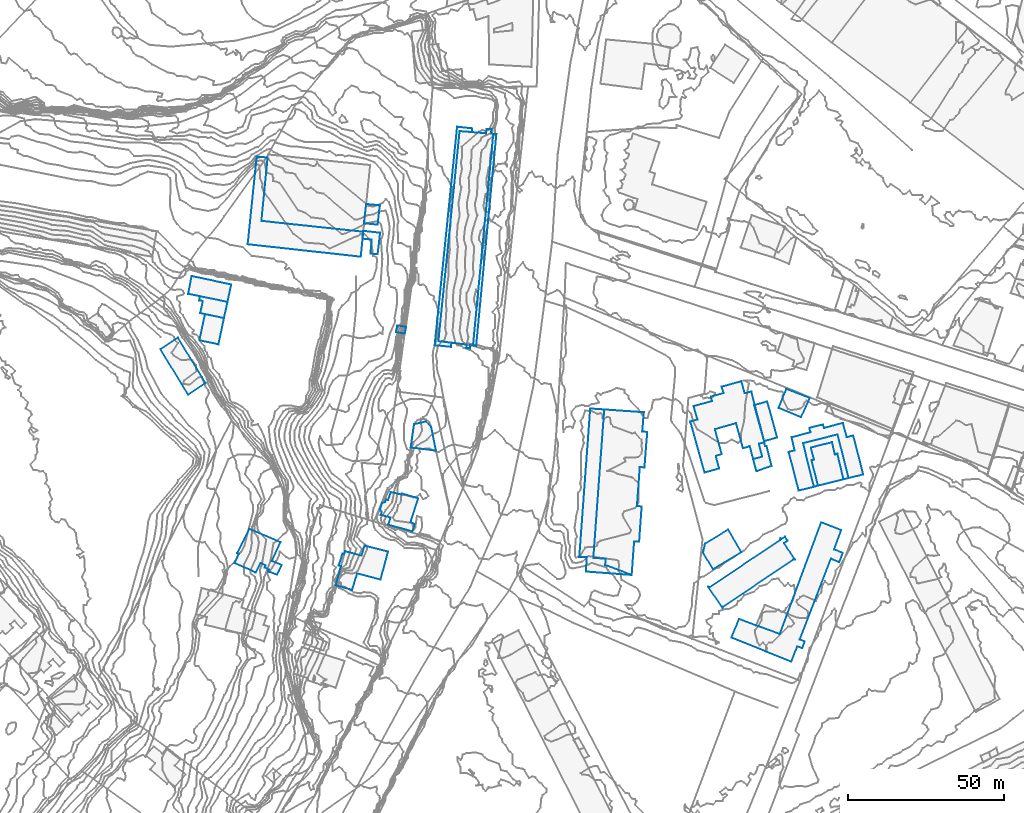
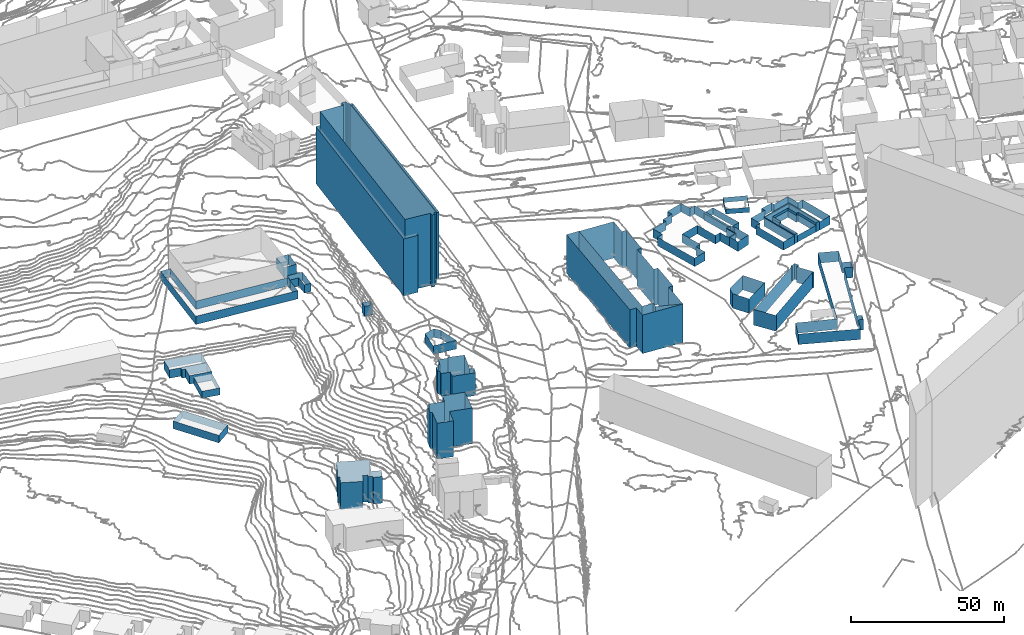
# Not in any storey, part 37 of 419: 27 walls.
"""IFC2X3 model written with IfcOpenShell, lengths in metres."""

import ifcopenshell
import ifcopenshell.guid

model = None  # the IFC model being written
_history = None  # IfcOwnerHistory: only IFC2X3 demands one
_inside = {}  # id of a spatial element -> (the spatial element, [elements in it])
_under = {}  # id of a project, library or spatial element -> (it, [spatial elements below it])
_declared = {}  # id of a project -> (the project, [libraries it declares])
_typed = {}  # id of a type object -> (the type object, [elements of that type])
_made_of = {}  # id of a material, layer set ... -> (it, [elements and type objects made of it])


def new_model(schema):
    """Start an empty IFC model of exactly this schema.

    Asked for "IFC4X3", IfcOpenShell would pick the latest addendum, in which some entities
    have other attributes; the version numbers below select the first issue.
    IFC2X3 requires an IfcOwnerHistory on every rooted entity: one is made here for all.
    """
    global model, _history
    if schema == "IFC4X3":
        model = ifcopenshell.file(schema_version=(4, 3, 0, 0))
    else:
        model = ifcopenshell.file(schema=schema)
    _inside.clear()
    _under.clear()
    _declared.clear()
    _typed.clear()
    _made_of.clear()
    _history = None
    if model.schema == "IFC2X3":
        org = make("IfcOrganization", Name="unknown")
        user = make(
            "IfcPersonAndOrganization",
            ThePerson=make("IfcPerson", FamilyName="unknown"),
            TheOrganization=org,
        )
        app = make(
            "IfcApplication",
            ApplicationDeveloper=org,
            Version="unknown",
            ApplicationFullName="unknown",
            ApplicationIdentifier="unknown",
        )
        _history = make(
            "IfcOwnerHistory",
            OwningUser=user,
            OwningApplication=app,
            ChangeAction="ADDED",
            CreationDate=0,
        )
    return model


def make(cls, **values):
    """One entity of the class cls with the attributes given. An attribute that is None is left unset."""
    return model.create_entity(
        cls, **{name: value for name, value in values.items() if value is not None}
    )


def rooted(cls, **values):
    """An entity with a GlobalId (a new one), such as an element, a storey or a relation."""
    return make(cls, GlobalId=ifcopenshell.guid.new(), OwnerHistory=_history, **values)


def si_unit(unit_type, name, prefix=None):
    """IfcSIUnit, for example si_unit("LENGTHUNIT", "METRE", prefix="MILLI")."""
    return make("IfcSIUnit", UnitType=unit_type, Prefix=prefix, Name=name)


def assignment(units):
    """IfcUnitAssignment: the units of a project."""
    return None if units is None else make("IfcUnitAssignment", Units=units)


def point(xyz):
    """IfcCartesianPoint."""
    return None if xyz is None else make("IfcCartesianPoint", Coordinates=xyz)


def direction(xyz):
    """IfcDirection."""
    return None if xyz is None else make("IfcDirection", DirectionRatios=xyz)


def frame(location, z_axis=None, x_axis=None):
    """IfcAxis2Placement3D, a coordinate frame: its origin and axes. An axis left out is left unset."""
    return make(
        "IfcAxis2Placement3D",
        Location=point(location),
        Axis=direction(z_axis),
        RefDirection=direction(x_axis),
    )


def origin_with_axes():
    """The frame at (0, 0, 0) with the z axis (0, 0, 1) and the x axis (1, 0, 0) written out."""
    return frame((0.0, 0.0, 0.0), z_axis=(0.0, 0.0, 1.0), x_axis=(1.0, 0.0, 0.0))


def place(relative_to, where):
    """IfcLocalPlacement: puts the frame where relative to a parent placement (None: the world)."""
    return make(
        "IfcLocalPlacement", PlacementRelTo=relative_to, RelativePlacement=where
    )


def context(
    kind, dimensions, precision=None, world=None, true_north=None, identifier=None
):
    """IfcGeometricRepresentationContext, for example the 3D "Model" context."""
    return make(
        "IfcGeometricRepresentationContext",
        ContextIdentifier=identifier,
        ContextType=kind,
        CoordinateSpaceDimension=dimensions,
        Precision=precision,
        WorldCoordinateSystem=world,
        TrueNorth=true_north,
    )


def subcontext(parent, identifier, kind, view, scale=None):
    """IfcGeometricRepresentationSubContext, for example "Body" below "Model"."""
    return make(
        "IfcGeometricRepresentationSubContext",
        ContextIdentifier=identifier,
        ContextType=kind,
        ParentContext=parent,
        TargetScale=scale,
        TargetView=view,
    )


def project(units=None, contexts=None):
    """IfcProject with its units and contexts."""
    return rooted(
        "IfcProject",
        Name="project",
        RepresentationContexts=contexts,
        UnitsInContext=assignment(units),
    )


def faces_of(points, faces, orient=None, outer=None):
    """IfcFace entities. A face is a list of loops; a loop is a list of indices into points, from 0.

    orient and outer hold one flag for each loop. By default every Orientation is true, the
    first loop of a face is its IfcFaceOuterBound and the others are IfcFaceBound.
    """
    made = []
    for i, loops in enumerate(faces):
        bounds = []
        for j, loop in enumerate(loops):
            is_outer = j == 0 if outer is None else outer[i][j]
            bounds.append(
                make(
                    "IfcFaceOuterBound" if is_outer else "IfcFaceBound",
                    Bound=make("IfcPolyLoop", Polygon=[points[k] for k in loop]),
                    Orientation=True if orient is None else orient[i][j],
                )
            )
        made.append(make("IfcFace", Bounds=bounds))
    return made


def faceted_brep(points, faces, orient=None, outer=None, voids=None):
    """IfcFacetedBrep: a solid bounded by flat faces; with voids (closed shells), ...WithVoids."""
    shared = [point(p) for p in points]
    hull = make("IfcClosedShell", CfsFaces=faces_of(shared, faces, orient, outer))
    if voids is None:
        return make("IfcFacetedBrep", Outer=hull)
    return make(
        "IfcFacetedBrepWithVoids",
        Outer=hull,
        Voids=[
            make(cls, CfsFaces=faces_of(shared, fs, o, b)) for cls, fs, o, b in voids
        ],
    )


def shape(context_of_items, identifier, shape_type, items):
    """IfcShapeRepresentation: the items that make up one representation, for example the "Body"."""
    return make(
        "IfcShapeRepresentation",
        ContextOfItems=context_of_items,
        RepresentationIdentifier=identifier,
        RepresentationType=shape_type,
        Items=items,
    )


def made_of(thing, what):
    """Note that an element or type object is made of a material, layer set ...; save() writes the relation."""
    if what is not None:
        _made_of.setdefault(what.id(), (what, []))[1].append(thing)
    return thing


def element(
    cls,
    number,
    at=None,
    inside=None,
    cuts=None,
    type_object=None,
    material=None,
    context=None,
    identifier="Body",
    shape_type=None,
    held_by="IfcProductDefinitionShape",
    body=None,
    shapes=None,
    **own,
):
    """One element of the class cls, such as IfcWall. Its Tag is "e" and its number.

    at: its placement. inside: the storey or other place that contains it. cuts: it is an
    opening in that element (IfcRelVoidsElement). A single representation is given by context,
    identifier, shape_type and body (its items); several are given by shapes. held_by: the class
    of the entity that holds the representations. save() writes the other relations.
    """
    e = rooted(cls, Tag="e%d" % number, ObjectPlacement=at, **own)
    if body is not None:
        shapes = [shape(context, identifier, shape_type, body)]
    if shapes is not None:
        e.Representation = make(held_by, Representations=shapes)
    if inside is not None:
        _inside.setdefault(inside.id(), (inside, []))[1].append(e)
    if cuts is not None:
        rooted(
            "IfcRelVoidsElement", RelatingBuildingElement=cuts, RelatedOpeningElement=e
        )
    if type_object is not None:
        _typed.setdefault(type_object.id(), (type_object, []))[1].append(e)
    return made_of(e, material)


def aggregate(whole, parts):
    """IfcRelAggregates: a whole, such as a stair, and the parts it consists of."""
    return rooted("IfcRelAggregates", RelatingObject=whole, RelatedObjects=parts)


def save(model, path):
    """Write the relations noted so far, then the file.

    IfcRelAggregates (storeys below a building ...), IfcRelContainedInSpatialStructure (elements
    in a storey), IfcRelDefinesByType, IfcRelAssociatesMaterial and IfcRelDeclares: one each for
    every whole, place, type object, material and project.
    """
    for whole, parts in _under.values():
        aggregate(whole, parts)
    for where, things in _inside.values():
        rooted(
            "IfcRelContainedInSpatialStructure",
            RelatedElements=things,
            RelatingStructure=where,
        )
    for kind, things in _typed.values():
        rooted("IfcRelDefinesByType", RelatedObjects=things, RelatingType=kind)
    for what, things in _made_of.values():
        rooted("IfcRelAssociatesMaterial", RelatedObjects=things, RelatingMaterial=what)
    for by, libraries in _declared.values():
        rooted("IfcRelDeclares", RelatingContext=by, RelatedDefinitions=libraries)
    model.write(path)


model = new_model("IFC2X3")

# Units and contexts
model_context = context("Model", 3, precision=1e-05, world=origin_with_axes())
body_context = subcontext(model_context, "Body", "Model", "MODEL_VIEW")
ifc_project = project(units=[si_unit("AREAUNIT", "SQUARE_METRE"), si_unit("LENGTHUNIT", "METRE")], contexts=[model_context])

# Walls
wall_1_placement = place(None, frame((766.0920204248, 156.0976909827, 75.7675977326), z_axis=(0.0, 0.0, 1.0), x_axis=(1.0, 0.0, 0.0)))
element("IfcWall", 1, at=wall_1_placement, Name="Mur 0", context=body_context, shape_type="Brep", body=[
    faceted_brep([(0.0, 0.0, 1.9324022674), (2.5, 6.0999999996, 1.9324022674), (0.0, 0.0, 0.0), (2.5, 6.0999999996, 0.0), (7.2, -3.0, 1.9324022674), (7.2, -3.0, 0.0), (10.0, 3.2000000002, 1.9324022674), (10.0, 3.2000000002, 0.0)], [[[0, 1, 2]], [[2, 1, 3]], [[4, 0, 5]], [[5, 0, 2]], [[1, 6, 3]], [[3, 6, 7]], [[6, 4, 7]], [[7, 4, 5]]]),
])
wall_2_placement = place(None, frame((576.6920204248, 192.6976909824, 54.1280997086), z_axis=(0.0, 0.0, 1.0), x_axis=(1.0, 0.0, 0.0)))
element("IfcWall", 2, at=wall_2_placement, Name="Mur 0", context=body_context, shape_type="Brep", body=[
    faceted_brep([(12.6, -2.5999999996, 3.3719002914), (0.0, 0.0, 3.3719002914), (12.6, -2.5999999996, 0.0), (0.0, 0.0, 0.0), (13.8, 3.0, 3.3719002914), (13.8, 3.0, 0.0), (1.1, 5.7000000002, 3.3719002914), (1.1, 5.7000000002, 0.0)], [[[0, 1, 2]], [[2, 1, 3]], [[4, 0, 5]], [[5, 0, 2]], [[1, 6, 3]], [[3, 6, 7]], [[6, 4, 7]], [[7, 4, 5]]]),
])
wall_3_placement = place(None, frame((632.5920204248, 210.3976909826, 59.9000015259), z_axis=(0.0, 0.0, 1.0), x_axis=(1.0, 0.0, 0.0)))
element("IfcWall", 3, at=wall_3_placement, Name="Mur 0", context=body_context, shape_type="Brep", body=[
    faceted_brep([(0.0, 0.0, 3.2999984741), (0.3, 2.5, 3.2999984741), (0.0, 0.0, 0.0), (0.3, 2.5, 0.0), (3.0, -0.2999999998, 3.2999984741), (3.0, -0.2999999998, 0.0), (2.6, -4.7999999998, 3.2999984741), (2.6, -4.7999999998, 0.0), (4.9, -5.0, 3.2999984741), (4.9, -5.0, 0.0), (5.7, 1.9000000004, 3.2999984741), (5.7, 1.9000000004, 0.0)], [[[0, 1, 2]], [[2, 1, 3]], [[4, 0, 5]], [[5, 0, 2]], [[6, 4, 7]], [[7, 4, 5]], [[8, 6, 9]], [[9, 6, 7]], [[1, 10, 3]], [[3, 10, 11]], [[10, 8, 11]], [[11, 8, 9]]]),
])
wall_4_placement = place(None, frame((633.0920204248, 215.2976909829, 60.8579999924), z_axis=(0.0, 0.0, 1.0), x_axis=(1.0, 0.0, 0.0)))
element("IfcWall", 4, at=wall_4_placement, Name="Mur 0", context=body_context, shape_type="Brep", body=[
    faceted_brep([(0.0, 0.0, 4.1420000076), (0.7, 6.1999999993, 4.1420000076), (0.0, 0.0, 0.0), (0.7, 6.1999999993, 0.0), (4.4, -0.4000000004, 4.1420000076), (4.4, -0.4000000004, 0.0), (5.1, 5.7999999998, 4.1420000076), (5.1, 5.7999999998, 0.0)], [[[0, 1, 2]], [[2, 1, 3]], [[4, 0, 5]], [[5, 0, 2]], [[1, 6, 3]], [[3, 6, 7]], [[6, 4, 7]], [[7, 4, 5]]]),
])
wall_5_placement = place(None, frame((580.2920204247, 177.7976909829, 53.9178002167), z_axis=(0.0, 0.0, 1.0), x_axis=(1.0, 0.0, 0.0)))
element("IfcWall", 5, at=wall_5_placement, Name="Mur 0", context=body_context, shape_type="Brep", body=[
    faceted_brep([(0.0, 0.0, 2.7821997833), (1.8, 8.3999999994, 2.7821997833), (0.0, 0.0, 0.0), (1.8, 8.3999999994, 0.0), (6.1000000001, -1.3000000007, 2.7821997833), (6.1000000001, -1.3000000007, 0.0), (7.9, 7.0999999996, 2.7821997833), (7.9, 7.0999999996, 0.0)], [[[0, 1, 2]], [[2, 1, 3]], [[4, 0, 5]], [[5, 0, 2]], [[1, 6, 3]], [[3, 6, 7]], [[6, 4, 7]], [[7, 4, 5]]]),
])
wall_6_placement = place(None, frame((580.1920204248, 190.5976909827, 54.1919986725), z_axis=(0.0, 0.0, 1.0), x_axis=(1.0, 0.0, 0.0)))
element("IfcWall", 6, at=wall_6_placement, Name="Mur 0", context=body_context, shape_type="Brep", body=[
    faceted_brep([(0.0, 0.0, 3.4080013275), (0.3, 1.2999999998, 3.4080013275), (0.0, 0.0, 0.0), (0.3, 1.2999999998, 0.0), (1.2000000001, -0.2000000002, 3.4080013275), (1.2000000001, -0.2000000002, 0.0), (0.4, -4.1000000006, 3.4080013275), (0.4, -4.1000000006, 0.0), (8.0, -5.7000000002, 3.4080013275), (8.0, -5.7000000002, 0.0), (9.1, -0.5, 3.4080013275), (9.1, -0.5, 0.0)], [[[0, 1, 2]], [[2, 1, 3]], [[4, 0, 5]], [[5, 0, 2]], [[6, 4, 7]], [[7, 4, 5]], [[8, 6, 9]], [[9, 6, 7]], [[1, 10, 3]], [[3, 10, 11]], [[10, 8, 11]], [[11, 8, 9]]]),
])
wall_7_placement = place(None, frame((773.9920204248, 144.7976909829, 75.1139984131), z_axis=(0.0, 0.0, 1.0), x_axis=(1.0, 0.0, 0.0)))
element("IfcWall", 7, at=wall_7_placement, Name="Mur 0", context=body_context, shape_type="Brep", body=[
    faceted_brep([(4.7999999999, -13.6000000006, 3.6860015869), (3.5, -14.0, 3.6860015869), (4.7999999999, -13.6000000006, 0.0), (3.5, -14.0, 0.0), (2.7, -5.5, 3.6860015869), (2.7, -5.5, 0.0), (3.5, -5.3000000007, 3.6860015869), (3.5, -5.3000000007, 0.0), (2.5, -1.4000000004, 3.6860015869), (2.5, -1.4000000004, 0.0), (9.2999999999, 0.2999999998, 3.6860015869), (9.2999999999, 0.2999999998, 0.0), (10.2, -3.6000000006, 3.6860015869), (10.2, -3.6000000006, 0.0), (11.0, -3.4000000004, 3.6860015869), (11.0, -3.4000000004, 0.0), (13.0, -11.6000000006, 3.6860015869), (13.0, -11.6000000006, 0.0), (14.6, -11.2000000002, 3.6860015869), (14.6, -11.2000000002, 0.0), (11.1, 2.7999999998, 3.6860015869), (11.1, 2.7999999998, 0.0), (0.0, 0.0, 3.6860015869), (0.0, 0.0, 0.0)], [[[0, 1, 2]], [[2, 1, 3]], [[4, 0, 5]], [[5, 0, 2]], [[6, 4, 7]], [[7, 4, 5]], [[8, 6, 9]], [[9, 6, 7]], [[10, 8, 11]], [[11, 8, 9]], [[12, 10, 13]], [[13, 10, 11]], [[14, 12, 15]], [[15, 12, 13]], [[16, 14, 17]], [[17, 14, 15]], [[18, 16, 19]], [[19, 16, 17]], [[20, 18, 21]], [[21, 18, 19]], [[1, 22, 3]], [[3, 22, 23]], [[22, 20, 23]], [[23, 20, 21]]]),
])
wall_8_placement = place(None, frame((595.7920204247, 208.5976909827, 59.3163995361), z_axis=(0.0, 0.0, 1.0), x_axis=(1.0, 0.0, 0.0)))
element("IfcWall", 8, at=wall_8_placement, Name="Mur 0", context=body_context, shape_type="Brep", body=[
    faceted_brep([(0.0, 0.0, 3.2836004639), (2.9, 28.0999999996, 3.2836004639), (0.0, 0.0, 0.0), (2.9, 28.0999999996, 0.0), (36.3, -4.0, 3.2836004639), (36.3, -4.0, 0.0), (37.1000000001, 4.0, 3.2836004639), (37.1000000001, 4.0, 0.0), (4.4, 7.5, 3.2836004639), (4.4, 7.5, 0.0), (6.4, 27.7999999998, 3.2836004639), (6.4, 27.7999999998, 0.0)], [[[0, 1, 2]], [[2, 1, 3]], [[4, 0, 5]], [[5, 0, 2]], [[6, 4, 7]], [[7, 4, 5]], [[8, 6, 9]], [[9, 6, 7]], [[1, 10, 3]], [[3, 10, 11]], [[10, 8, 11]], [[11, 8, 9]]]),
])
wall_9_placement = place(None, frame((643.3920204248, 180.3976909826, 63.0056015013), z_axis=(0.0, 0.0, 1.0), x_axis=(1.0, 0.0, 0.0)))
element("IfcWall", 9, at=wall_9_placement, Name="Mur 0", context=body_context, shape_type="Brep", body=[
    faceted_brep([(0.3999999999, 2.2000000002, 3.9943984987), (3.2, 1.7000000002, 3.9943984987), (0.3999999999, 2.2000000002, 0.0), (3.2, 1.7000000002, 0.0), (0.0, 0.0, 3.9943984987), (0.0, 0.0, 0.0), (2.7999999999, -0.5, 3.9943984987), (2.7999999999, -0.5, 0.0)], [[[0, 1, 2]], [[2, 1, 3]], [[4, 0, 5]], [[5, 0, 2]], [[1, 6, 3]], [[3, 6, 7]], [[6, 4, 7]], [[7, 4, 5]]]),
])
wall_10_placement = place(None, frame((623.9920204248, 99.1976909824, 61.9557989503), z_axis=(0.0, 0.0, 1.0), x_axis=(1.0, 0.0, 0.0)))
element("IfcWall", 10, at=wall_10_placement, Name="Mur 0", context=body_context, shape_type="Brep", body=[
    faceted_brep([(9.2999999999, 12.7000000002, 14.3442010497), (16.7999999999, 10.7999999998, 14.3442010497), (9.2999999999, 12.7000000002, 0.0), (16.7999999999, 10.7999999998, 0.0), (8.2999999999, 9.5, 14.3442010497), (8.2999999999, 9.5, 0.0), (3.1, 10.9000000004, 14.3442010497), (3.1, 10.9000000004, 0.0), (2.7999999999, 10.0, 14.3442010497), (2.7999999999, 10.0, 0.0), (2.2, 10.1000000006, 14.3442010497), (2.2, 10.1000000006, 0.0), (1.0, 6.2999999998, 14.3442010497), (1.0, 6.2999999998, 0.0), (1.7, 6.1000000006, 14.3442010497), (1.7, 6.1000000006, 0.0), (0.0, 0.0, 14.3442010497), (0.0, 0.0, 0.0), (5.2999999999, -1.5, 14.3442010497), (5.2999999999, -1.5, 0.0), (6.9, 3.7999999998, 14.3442010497), (6.9, 3.7999999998, 0.0), (14.4, 1.7999999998, 14.3442010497), (14.4, 1.7999999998, 0.0)], [[[0, 1, 2]], [[2, 1, 3]], [[4, 0, 5]], [[5, 0, 2]], [[6, 4, 7]], [[7, 4, 5]], [[8, 6, 9]], [[9, 6, 7]], [[10, 8, 11]], [[11, 8, 9]], [[12, 10, 13]], [[13, 10, 11]], [[14, 12, 15]], [[15, 12, 13]], [[16, 14, 17]], [[17, 14, 15]], [[18, 16, 19]], [[19, 16, 17]], [[20, 18, 21]], [[21, 18, 19]], [[1, 22, 3]], [[3, 22, 23]], [[22, 20, 23]], [[23, 20, 21]]]),
])
wall_11_placement = place(None, frame((776.4920204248, 143.3976909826, 75.1452017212), z_axis=(0.0, 0.0, 1.0), x_axis=(1.0, 0.0, 0.0)))
element("IfcWall", 11, at=wall_11_placement, Name="Mur 0", context=body_context, shape_type="Brep", body=[
    faceted_brep([(10.5, -10.2000000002, 2.6547982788), (2.2999999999, -12.2000000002, 2.6547982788), (10.5, -10.2000000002, 0.0), (2.2999999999, -12.2000000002, 0.0), (8.5, -2.0, 2.6547982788), (8.5, -2.0, 0.0), (7.7, -2.2000000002, 2.6547982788), (7.7, -2.2000000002, 0.0), (6.7999999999, 1.7000000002, 2.6547982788), (6.7999999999, 1.7000000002, 0.0), (0.0, 0.0, 2.6547982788), (0.0, 0.0, 0.0), (1.0, -3.9000000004, 2.6547982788), (1.0, -3.9000000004, 0.0), (0.2, -4.0999999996, 2.6547982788), (0.2, -4.0999999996, 0.0)], [[[0, 1, 2]], [[2, 1, 3]], [[4, 0, 5]], [[5, 0, 2]], [[6, 4, 7]], [[7, 4, 5]], [[8, 6, 9]], [[9, 6, 7]], [[10, 8, 11]], [[11, 8, 9]], [[12, 10, 13]], [[13, 10, 11]], [[1, 14, 3]], [[3, 14, 15]], [[14, 12, 15]], [[15, 12, 13]]]),
])
wall_12_placement = place(None, frame((769.3920204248, 141.9976909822, 75.0448005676), z_axis=(0.0, 0.0, 1.0), x_axis=(1.0, 0.0, 0.0)))
element("IfcWall", 12, at=wall_12_placement, Name="Mur 0", context=body_context, shape_type="Brep", body=[
    faceted_brep([(4.6, 2.8000000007, 3.3551994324), (8.1, -11.1999999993, 3.3551994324), (4.6, 2.8000000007, 0.0), (8.1, -11.1999999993, 0.0), (15.7, 5.6000000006, 3.3551994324), (15.7, 5.6000000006, 0.0), (19.2, -8.3999999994, 3.3551994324), (19.2, -8.3999999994, 0.0), (23.8999999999, -7.1999999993, 3.3551994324), (23.8999999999, -7.1999999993, 0.0), (20.7, 5.3000000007, 3.3551994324), (20.7, 5.3000000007, 0.0), (18.6, 4.7000000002, 3.3551994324), (18.6, 4.7000000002, 0.0), (17.3999999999, 9.3000000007, 3.3551994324), (17.3999999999, 9.3000000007, 0.0), (11.2999999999, 7.7000000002, 3.3551994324), (11.2999999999, 7.7000000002, 0.0), (11.0, 8.8000000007, 3.3551994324), (11.0, 8.8000000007, 0.0), (6.6, 7.7000000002, 3.3551994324), (6.6, 7.7000000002, 0.0), (7.0, 6.3000000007, 3.3551994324), (7.0, 6.3000000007, 0.0), (0.8999999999, 4.7000000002, 3.3551994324), (0.8999999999, 4.7000000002, 0.0), (1.8999999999, 0.5, 3.3551994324), (1.8999999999, 0.5, 0.0), (0.0, 0.0, 3.3551994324), (0.0, 0.0, 0.0), (3.2, -12.3999999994, 3.3551994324), (3.2, -12.3999999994, 0.0)], [[[0, 1, 2]], [[2, 1, 3]], [[4, 0, 5]], [[5, 0, 2]], [[6, 4, 7]], [[7, 4, 5]], [[8, 6, 9]], [[9, 6, 7]], [[10, 8, 11]], [[11, 8, 9]], [[12, 10, 13]], [[13, 10, 11]], [[14, 12, 15]], [[15, 12, 13]], [[16, 14, 17]], [[17, 14, 15]], [[18, 16, 19]], [[19, 16, 17]], [[20, 18, 21]], [[21, 18, 19]], [[22, 20, 23]], [[23, 20, 21]], [[24, 22, 25]], [[25, 22, 23]], [[26, 24, 27]], [[27, 24, 25]], [[28, 26, 29]], [[29, 26, 27]], [[1, 30, 3]], [[3, 30, 31]], [[30, 28, 31]], [[31, 28, 29]]]),
])
wall_13_placement = place(None, frame((741.8920204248, 109.6976909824, 74.6950004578), z_axis=(0.0, 0.0, 1.0), x_axis=(1.0, 0.0, 0.0)))
element("IfcWall", 13, at=wall_13_placement, Name="Mur 0", context=body_context, shape_type="Brep", body=[
    faceted_brep([(12.2999999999, 0.2000000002, 5.8049995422), (3.2, -5.2999999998, 5.8049995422), (12.2999999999, 0.2000000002, 0.0), (3.2, -5.2999999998, 0.0), (8.1, 7.4000000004, 5.8049995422), (8.1, 7.4000000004, 0.0), (0.6, 2.9000000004, 5.8049995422), (0.6, 2.9000000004, 0.0), (0.0, 0.0, 5.8049995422), (0.0, 0.0, 0.0)], [[[0, 1, 2]], [[2, 1, 3]], [[4, 0, 5]], [[5, 0, 2]], [[6, 4, 7]], [[7, 4, 5]], [[1, 8, 3]], [[3, 8, 9]], [[8, 6, 9]], [[9, 6, 7]]]),
])
wall_14_placement = place(None, frame((668.0920204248, 176.0976909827, 71.9225025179), z_axis=(0.0, 0.0, 1.0), x_axis=(1.0, 0.0, 0.0)))
element("IfcWall", 14, at=wall_14_placement, Name="Mur 0", context=body_context, shape_type="Brep", body=[
    faceted_brep([(0.0, 0.0, 26.5774974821), (6.5, 67.8999999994, 26.5774974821), (0.0, 0.0, 0.0), (6.5, 67.8999999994, 0.0), (1.0, -0.1000000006, 26.5774974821), (1.0, -0.1000000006, 0.0), (7.5, 67.7999999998, 26.5774974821), (7.5, 67.7999999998, 0.0)], [[[0, 1, 2]], [[2, 1, 3]], [[4, 0, 5]], [[5, 0, 2]], [[1, 6, 3]], [[3, 6, 7]], [[6, 4, 7]], [[7, 4, 5]]]),
])
wall_15_placement = place(None, frame((758.2920204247, 156.9976909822, 75.5342018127), z_axis=(0.0, 0.0, 1.0), x_axis=(1.0, 0.0, 0.0)))
element("IfcWall", 15, at=wall_15_placement, Name="Mur 0", context=body_context, shape_type="Brep", body=[
    faceted_brep([(3.2000000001, -11.5, 2.7657981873), (0.0, 0.0, 2.7657981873), (3.2000000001, -11.5, 0.0), (0.0, 0.0, 0.0), (7.4, -10.3999999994, 2.7657981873), (7.4, -10.3999999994, 0.0), (4.2000000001, 1.2000000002, 2.7657981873), (4.2000000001, 1.2000000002, 0.0)], [[[0, 1, 2]], [[2, 1, 3]], [[4, 0, 5]], [[5, 0, 2]], [[1, 6, 3]], [[3, 6, 7]], [[6, 4, 7]], [[7, 4, 5]]]),
])
wall_16_placement = place(None, frame((648.0920204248, 143.3976909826, 68.536000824), z_axis=(0.0, 0.0, 1.0), x_axis=(1.0, 0.0, 0.0)))
element("IfcWall", 16, at=wall_16_placement, Name="Mur 0", context=body_context, shape_type="Brep", body=[
    faceted_brep([(6.6, 6.5, 3.463999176), (8.1, -1.0, 3.463999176), (6.6, 6.5, 0.0), (8.1, -1.0, 0.0), (5.0, 8.4000000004, 3.463999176), (5.0, 8.4000000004, 0.0), (1.1, 7.5, 3.463999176), (1.1, 7.5, 0.0), (0.0, 0.0, 3.463999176), (0.0, 0.0, 0.0)], [[[0, 1, 2]], [[2, 1, 3]], [[4, 0, 5]], [[5, 0, 2]], [[6, 4, 7]], [[7, 4, 5]], [[1, 8, 3]], [[3, 8, 9]], [[8, 6, 9]], [[9, 6, 7]]]),
])
wall_17_placement = place(None, frame((655.7920204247, 176.1976909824, 69.400798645), z_axis=(0.0, 0.0, 1.0), x_axis=(1.0, 0.0, 0.0)))
element("IfcWall", 17, at=wall_17_placement, Name="Mur 0", context=body_context, shape_type="Brep", body=[
    faceted_brep([(12.0, 69.6000000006, 22.799201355), (11.9, 68.4000000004, 22.799201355), (12.0, 69.6000000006, 0.0), (11.9, 68.4000000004, 0.0), (7.2000000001, 70.1000000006, 22.799201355), (7.2000000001, 70.1000000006, 0.0), (0.0, 0.0, 22.799201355), (0.0, 0.0, 0.0), (5.2000000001, -0.5, 22.799201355), (5.2000000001, -0.5, 0.0), (5.4, 0.7999999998, 22.799201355), (5.4, 0.7999999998, 0.0), (1.2000000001, 1.2999999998, 22.799201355), (1.2000000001, 1.2999999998, 0.0), (8.0, 68.7000000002, 22.799201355), (8.0, 68.7000000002, 0.0)], [[[0, 1, 2]], [[2, 1, 3]], [[4, 0, 5]], [[5, 0, 2]], [[6, 4, 7]], [[7, 4, 5]], [[8, 6, 9]], [[9, 6, 7]], [[10, 8, 11]], [[11, 8, 9]], [[12, 10, 13]], [[13, 10, 11]], [[1, 14, 3]], [[3, 14, 15]], [[14, 12, 15]], [[15, 12, 13]]]),
])
wall_18_placement = place(None, frame((591.5920204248, 106.2976909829, 48.8435992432), z_axis=(0.0, 0.0, 1.0), x_axis=(1.0, 0.0, 0.0)))
element("IfcWall", 18, at=wall_18_placement, Name="Mur 0", context=body_context, shape_type="Brep", body=[
    faceted_brep([(0.8, 3.2999999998, 10.6564007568), (2.2, 5.8999999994, 10.6564007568), (0.8, 3.2999999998, 0.0), (2.2, 5.8999999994, 0.0), (1.4, 3.0, 10.6564007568), (1.4, 3.0, 0.0), (0.0, 0.0, 10.6564007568), (0.0, 0.0, 0.0), (6.8, -3.0, 10.6564007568), (6.8, -3.0, 0.0), (8.3, 0.0, 10.6564007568), (8.3, 0.0, 0.0), (9.9, -0.7000000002, 10.6564007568), (9.9, -0.7000000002, 0.0), (9.6, -1.4000000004, 10.6564007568), (9.6, -1.4000000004, 0.0), (11.0, -2.1000000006, 10.6564007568), (11.0, -2.1000000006, 0.0), (10.8, -2.7000000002, 10.6564007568), (10.8, -2.7000000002, 0.0), (13.6, -3.7000000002, 10.6564007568), (13.6, -3.7000000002, 0.0), (15.1, -0.6000000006, 10.6564007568), (15.1, -0.6000000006, 0.0), (11.9, 0.6999999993, 10.6564007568), (11.9, 0.6999999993, 0.0), (14.7, 6.6999999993, 10.6564007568), (14.7, 6.6999999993, 0.0), (4.7, 11.0, 10.6564007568), (4.7, 11.0, 0.0)], [[[0, 1, 2]], [[2, 1, 3]], [[4, 0, 5]], [[5, 0, 2]], [[6, 4, 7]], [[7, 4, 5]], [[8, 6, 9]], [[9, 6, 7]], [[10, 8, 11]], [[11, 8, 9]], [[12, 10, 13]], [[13, 10, 11]], [[14, 12, 15]], [[15, 12, 13]], [[16, 14, 17]], [[17, 14, 15]], [[18, 16, 19]], [[19, 16, 17]], [[20, 18, 21]], [[21, 18, 19]], [[22, 20, 23]], [[23, 20, 21]], [[24, 22, 25]], [[25, 22, 23]], [[26, 24, 27]], [[27, 24, 25]], [[1, 28, 3]], [[3, 28, 29]], [[28, 26, 29]], [[29, 26, 27]]]),
])
wall_19_placement = place(None, frame((757.9920204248, 139.6976909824, 75.5514982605), z_axis=(0.0, 0.0, 1.0), x_axis=(1.0, 0.0, 0.0)))
element("IfcWall", 19, at=wall_19_placement, Name="Mur 0", context=body_context, shape_type="Brep", body=[
    faceted_brep([(1.0, -3.8999999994, 3.8485017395), (0.0, 0.0, 3.8485017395), (1.0, -3.8999999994, 0.0), (0.0, 0.0, 0.0), (5.9, -2.2000000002, 3.8485017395), (5.9, -2.2000000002, 0.0), (4.2999999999, 4.2000000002, 3.8485017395), (4.2999999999, 4.2000000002, 0.0), (3.7999999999, 4.1000000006, 3.8485017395), (3.7999999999, 4.1000000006, 0.0), (3.6, 5.4000000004, 3.8485017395), (3.6, 5.4000000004, 0.0), (1.7999999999, 4.9000000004, 3.8485017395), (1.7999999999, 4.9000000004, 0.0), (2.9, 0.7999999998, 3.8485017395), (2.9, 0.7999999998, 0.0)], [[[0, 1, 2]], [[2, 1, 3]], [[4, 0, 5]], [[5, 0, 2]], [[6, 4, 7]], [[7, 4, 5]], [[8, 6, 9]], [[9, 6, 7]], [[10, 8, 11]], [[11, 8, 9]], [[12, 10, 13]], [[13, 10, 11]], [[1, 14, 3]], [[3, 14, 15]], [[14, 12, 15]], [[15, 12, 13]]]),
])
wall_20_placement = place(None, frame((743.4920204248, 98.7976909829, 73.9909980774), z_axis=(0.0, 0.0, 1.0), x_axis=(1.0, 0.0, 0.0)))
element("IfcWall", 20, at=wall_20_placement, Name="Mur 0", context=body_context, shape_type="Brep", body=[
    faceted_brep([(27.2999999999, 8.5999999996, 6.3090019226), (4.7999999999, -6.5, 6.3090019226), (27.2999999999, 8.5999999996, 0.0), (4.7999999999, -6.5, 0.0), (27.9, 8.5999999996, 6.3090019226), (27.9, 8.5999999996, 0.0), (24.4, 14.0, 6.3090019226), (24.4, 14.0, 0.0), (25.5, 14.6999999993, 6.3090019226), (25.5, 14.6999999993, 0.0), (24.7, 16.0, 6.3090019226), (24.7, 16.0, 0.0), (23.5, 15.1999999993, 6.3090019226), (23.5, 15.1999999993, 0.0), (23.2, 15.5999999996, 6.3090019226), (23.2, 15.5999999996, 0.0), (23.1, 14.8999999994, 6.3090019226), (23.1, 14.8999999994, 0.0), (0.5, -0.2000000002, 6.3090019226), (0.5, -0.2000000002, 0.0), (0.0, 0.0, 6.3090019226), (0.0, 0.0, 0.0), (4.7, -6.9000000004, 6.3090019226), (4.7, -6.9000000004, 0.0)], [[[0, 1, 2]], [[2, 1, 3]], [[4, 0, 5]], [[5, 0, 2]], [[6, 4, 7]], [[7, 4, 5]], [[8, 6, 9]], [[9, 6, 7]], [[10, 8, 11]], [[11, 8, 9]], [[12, 10, 13]], [[13, 10, 11]], [[14, 12, 15]], [[15, 12, 13]], [[16, 14, 17]], [[17, 14, 15]], [[18, 16, 19]], [[19, 16, 17]], [[20, 18, 21]], [[21, 18, 19]], [[1, 22, 3]], [[3, 22, 23]], [[22, 20, 23]], [[23, 20, 21]]]),
])
wall_21_placement = place(None, frame((638.2920204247, 123.6976909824, 68.2908021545), z_axis=(0.0, 0.0, 1.0), x_axis=(1.0, 0.0, 0.0)))
element("IfcWall", 21, at=wall_21_placement, Name="Mur 0", context=body_context, shape_type="Brep", body=[
    faceted_brep([(6.8, 5.0, 9.1091978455), (12.2000000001, 3.4000000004, 9.1091978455), (6.8, 5.0, 0.0), (12.2000000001, 3.4000000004, 0.0), (6.7000000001, 4.6000000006, 9.1091978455), (6.7000000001, 4.6000000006, 0.0), (3.4, 5.4000000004, 9.1091978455), (3.4, 5.4000000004, 0.0), (2.5, 2.7999999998, 9.1091978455), (2.5, 2.7999999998, 0.0), (1.9, 3.0, 9.1091978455), (1.9, 3.0, 0.0), (1.6000000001, 2.2000000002, 9.1091978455), (1.6000000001, 2.2000000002, 0.0), (0.6000000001, 1.9000000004, 9.1091978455), (0.6000000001, 1.9000000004, 0.0), (0.0, 0.0, 9.1091978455), (0.0, 0.0, 0.0), (0.5, -1.0, 9.1091978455), (0.5, -1.0, 0.0), (0.2000000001, -1.8999999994, 9.1091978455), (0.2000000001, -1.8999999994, 0.0), (3.3, -2.7999999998, 9.1091978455), (3.3, -2.7999999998, 0.0), (2.6000000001, -5.0999999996, 9.1091978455), (2.6000000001, -5.0999999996, 0.0), (10.3, -7.2000000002, 9.1091978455), (10.3, -7.2000000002, 0.0), (11.1000000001, -4.7999999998, 9.1091978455), (11.1000000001, -4.7999999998, 0.0), (9.7000000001, -4.2999999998, 9.1091978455), (9.7000000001, -4.2999999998, 0.0)], [[[0, 1, 2]], [[2, 1, 3]], [[4, 0, 5]], [[5, 0, 2]], [[6, 4, 7]], [[7, 4, 5]], [[8, 6, 9]], [[9, 6, 7]], [[10, 8, 11]], [[11, 8, 9]], [[12, 10, 13]], [[13, 10, 11]], [[14, 12, 15]], [[15, 12, 13]], [[16, 14, 17]], [[17, 14, 15]], [[18, 16, 19]], [[19, 16, 17]], [[20, 18, 21]], [[21, 18, 19]], [[22, 20, 23]], [[23, 20, 21]], [[24, 22, 25]], [[25, 22, 23]], [[26, 24, 27]], [[27, 24, 25]], [[28, 26, 29]], [[29, 26, 27]], [[1, 30, 3]], [[3, 30, 31]], [[30, 28, 31]], [[31, 28, 29]]]),
])
wall_22_placement = place(None, frame((567.7920204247, 174.9976909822, 47.8444007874), z_axis=(0.0, 0.0, 1.0), x_axis=(1.0, 0.0, 0.0)))
element("IfcWall", 22, at=wall_22_placement, Name="Mur 0", context=body_context, shape_type="Brep", body=[
    faceted_brep([(5.6000000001, 3.7000000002, 3.0555992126), (14.5, -10.8999999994, 3.0555992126), (5.6000000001, 3.7000000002, 0.0), (14.5, -10.8999999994, 0.0), (0.0, 0.0, 3.0555992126), (0.0, 0.0, 0.0), (8.9, -14.5999999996, 3.0555992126), (8.9, -14.5999999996, 0.0)], [[[0, 1, 2]], [[2, 1, 3]], [[4, 0, 5]], [[5, 0, 2]], [[1, 6, 3]], [[3, 6, 7]], [[6, 4, 7]], [[7, 4, 5]]]),
])
wall_23_placement = place(None, frame((656.9920204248, 177.4976909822, 69.8758000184), z_axis=(0.0, 0.0, 1.0), x_axis=(1.0, 0.0, 0.0)))
element("IfcWall", 23, at=wall_23_placement, Name="Mur 0", context=body_context, shape_type="Brep", body=[
    faceted_brep([(16.9, 66.6000000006, 28.9241999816), (17.6, 66.5, 28.9241999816), (16.9, 66.6000000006, 0.0), (17.6, 66.5, 0.0), (17.0, 68.0, 28.9241999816), (17.0, 68.0, 0.0), (15.4, 68.1000000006, 28.9241999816), (15.4, 68.1000000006, 0.0), (15.2999999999, 66.7000000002, 28.9241999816), (15.2999999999, 66.7000000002, 0.0), (6.7999999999, 67.4000000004, 28.9241999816), (6.7999999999, 67.4000000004, 0.0), (0.0, 0.0, 28.9241999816), (0.0, 0.0, 0.0), (9.1, -1.0999999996, 28.9241999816), (9.1, -1.0999999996, 0.0), (8.9, -2.1999999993, 28.9241999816), (8.9, -2.1999999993, 0.0), (10.1, -2.2999999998, 28.9241999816), (10.1, -2.2999999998, 0.0), (10.2, -1.2999999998, 28.9241999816), (10.2, -1.2999999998, 0.0), (11.1, -1.3999999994, 28.9241999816), (11.1, -1.3999999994, 0.0)], [[[0, 1, 2]], [[2, 1, 3]], [[4, 0, 5]], [[5, 0, 2]], [[6, 4, 7]], [[7, 4, 5]], [[8, 6, 9]], [[9, 6, 7]], [[10, 8, 11]], [[11, 8, 9]], [[12, 10, 13]], [[13, 10, 11]], [[14, 12, 15]], [[15, 12, 13]], [[16, 14, 17]], [[17, 14, 15]], [[18, 16, 19]], [[19, 16, 17]], [[20, 18, 21]], [[21, 18, 19]], [[1, 22, 3]], [[3, 22, 23]], [[22, 20, 23]], [[23, 20, 21]]]),
])
wall_24_placement = place(None, frame((750.9920204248, 82.3976909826, 73.4999984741), z_axis=(0.0, 0.0, 1.0), x_axis=(1.0, 0.0, 0.0)))
element("IfcWall", 24, at=wall_24_placement, Name="Mur 0", context=body_context, shape_type="Brep", body=[
    faceted_brep([(2.4, 6.0, 4.2000015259), (7.9, 3.9000000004, 4.2000015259), (2.4, 6.0, 0.0), (7.9, 3.9000000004, 0.0), (0.0, 0.0, 4.2000015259), (0.0, 0.0, 0.0), (19.2, -7.7000000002, 4.2000015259), (19.2, -7.7000000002, 0.0), (21.1, -2.7999999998, 4.2000015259), (21.1, -2.7999999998, 0.0), (22.7, -3.4000000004, 4.2000015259), (22.7, -3.4000000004, 0.0), (23.5, -1.2000000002, 4.2000015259), (23.5, -1.2000000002, 0.0), (21.9, -0.5999999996, 4.2000015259), (21.9, -0.5999999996, 0.0), (31.9, 25.2999999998, 4.2000015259), (31.9, 25.2999999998, 0.0), (34.6, 24.2000000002, 4.2000015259), (34.6, 24.2000000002, 0.0), (35.7, 27.2000000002, 4.2000015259), (35.7, 27.2000000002, 0.0), (32.9, 28.2999999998, 4.2000015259), (32.9, 28.2999999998, 0.0), (35.2, 34.5, 4.2000015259), (35.2, 34.5, 0.0), (28.7999999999, 37.0, 4.2000015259), (28.7999999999, 37.0, 0.0), (15.5, 1.2000000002, 4.2000015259), (15.5, 1.2000000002, 0.0)], [[[0, 1, 2]], [[2, 1, 3]], [[4, 0, 5]], [[5, 0, 2]], [[6, 4, 7]], [[7, 4, 5]], [[8, 6, 9]], [[9, 6, 7]], [[10, 8, 11]], [[11, 8, 9]], [[12, 10, 13]], [[13, 10, 11]], [[14, 12, 15]], [[15, 12, 13]], [[16, 14, 17]], [[17, 14, 15]], [[18, 16, 19]], [[19, 16, 17]], [[20, 18, 21]], [[21, 18, 19]], [[22, 20, 23]], [[23, 20, 21]], [[24, 22, 25]], [[25, 22, 23]], [[26, 24, 27]], [[27, 24, 25]], [[1, 28, 3]], [[3, 28, 29]], [[28, 26, 29]], [[29, 26, 27]]]),
])
wall_25_placement = place(None, frame((737.7920204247, 151.7976909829, 75.5720001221), z_axis=(0.0, 0.0, 1.0), x_axis=(1.0, 0.0, 0.0)))
element("IfcWall", 25, at=wall_25_placement, Name="Mur 0", context=body_context, shape_type="Brep", body=[
    faceted_brep([(9.3, -15.1000000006, 3.4279998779), (4.6000000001, -16.4000000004, 3.4279998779), (9.3, -15.1000000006, 0.0), (4.6000000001, -16.4000000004, 0.0), (8.2000000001, -11.1000000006, 3.4279998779), (8.2000000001, -11.1000000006, 0.0), (10.1000000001, -10.5, 3.4279998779), (10.1000000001, -10.5, 0.0), (7.9, -2.5, 3.4279998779), (7.9, -2.5, 0.0), (14.7000000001, -0.6000000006, 3.4279998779), (14.7000000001, -0.6000000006, 0.0), (16.9, -8.6000000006, 3.4279998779), (16.9, -8.6000000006, 0.0), (19.1000000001, -8.0, 3.4279998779), (19.1000000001, -8.0, 0.0), (20.2000000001, -12.1000000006, 3.4279998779), (20.2000000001, -12.1000000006, 0.0), (23.1000000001, -11.3000000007, 3.4279998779), (23.1000000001, -11.3000000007, 0.0), (22.0, -7.2000000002, 3.4279998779), (22.0, -7.2000000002, 0.0), (23.8, -6.7000000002, 3.4279998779), (23.8, -6.7000000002, 0.0), (19.6000000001, 9.5999999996, 3.4279998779), (19.6000000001, 9.5999999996, 0.0), (17.5, 9.0, 3.4279998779), (17.5, 9.0, 0.0), (16.4, 12.8999999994, 3.4279998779), (16.4, 12.8999999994, 0.0), (10.1000000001, 11.0999999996, 3.4279998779), (10.1000000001, 11.0999999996, 0.0), (10.7000000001, 9.0999999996, 3.4279998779), (10.7000000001, 9.0999999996, 0.0), (6.6000000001, 7.8999999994, 3.4279998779), (6.6000000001, 7.8999999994, 0.0), (7.0, 6.5, 3.4279998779), (7.0, 6.5, 0.0), (1.1000000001, 4.8999999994, 3.4279998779), (1.1000000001, 4.8999999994, 0.0), (2.3, 0.5999999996, 3.4279998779), (2.3, 0.5999999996, 0.0), (0.0, 0.0, 3.4279998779), (0.0, 0.0, 0.0)], [[[0, 1, 2]], [[2, 1, 3]], [[4, 0, 5]], [[5, 0, 2]], [[6, 4, 7]], [[7, 4, 5]], [[8, 6, 9]], [[9, 6, 7]], [[10, 8, 11]], [[11, 8, 9]], [[12, 10, 13]], [[13, 10, 11]], [[14, 12, 15]], [[15, 12, 13]], [[16, 14, 17]], [[17, 14, 15]], [[18, 16, 19]], [[19, 16, 17]], [[20, 18, 21]], [[21, 18, 19]], [[22, 20, 23]], [[23, 20, 21]], [[24, 22, 25]], [[25, 22, 23]], [[26, 24, 27]], [[27, 24, 25]], [[28, 26, 29]], [[29, 26, 27]], [[30, 28, 31]], [[31, 28, 29]], [[32, 30, 33]], [[33, 30, 31]], [[34, 32, 35]], [[35, 32, 33]], [[36, 34, 37]], [[37, 34, 35]], [[38, 36, 39]], [[39, 36, 37]], [[40, 38, 41]], [[41, 38, 39]], [[1, 42, 3]], [[3, 42, 43]], [[42, 40, 43]], [[43, 40, 41]]]),
])
wall_26_placement = place(None, frame((706.6920204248, 107.9976909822, 74.1034985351), z_axis=(0.0, 0.0, 1.0), x_axis=(1.0, 0.0, 0.0)))
element("IfcWall", 26, at=wall_26_placement, Name="Mur 0", context=body_context, shape_type="Brep", body=[
    faceted_brep([(0.0, 0.0, 14.5965014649), (3.5, 47.6000000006, 14.5965014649), (0.0, 0.0, 0.0), (3.5, 47.6000000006, 0.0), (4.0, -0.2999999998, 14.5965014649), (4.0, -0.2999999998, 0.0), (3.8, -2.2999999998, 14.5965014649), (3.8, -2.2999999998, 0.0), (12.3, -5.5, 14.5965014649), (12.3, -5.5, 0.0), (13.1, 5.3000000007, 14.5965014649), (13.1, 5.3000000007, 0.0), (14.7000000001, 5.2000000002, 14.5965014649), (14.7000000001, 5.2000000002, 0.0), (15.5, 16.5, 14.5965014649), (15.5, 16.5, 0.0), (14.0, 16.6000000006, 14.5965014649), (14.0, 16.6000000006, 0.0), (14.9, 29.1000000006, 14.5965014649), (14.9, 29.1000000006, 0.0), (16.4, 29.0, 14.5965014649), (16.4, 29.0, 0.0), (17.3, 40.4000000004, 14.5965014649), (17.3, 40.4000000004, 0.0), (15.7000000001, 40.5, 14.5965014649), (15.7000000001, 40.5, 0.0), (16.2000000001, 46.7000000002, 14.5965014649), (16.2000000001, 46.7000000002, 0.0)], [[[0, 1, 2]], [[2, 1, 3]], [[4, 0, 5]], [[5, 0, 2]], [[6, 4, 7]], [[7, 4, 5]], [[8, 6, 9]], [[9, 6, 7]], [[10, 8, 11]], [[11, 8, 9]], [[12, 10, 13]], [[13, 10, 11]], [[14, 12, 15]], [[15, 12, 13]], [[16, 14, 17]], [[17, 14, 15]], [[18, 16, 19]], [[19, 16, 17]], [[20, 18, 21]], [[21, 18, 19]], [[22, 20, 23]], [[23, 20, 21]], [[24, 22, 25]], [[25, 22, 23]], [[1, 26, 3]], [[3, 26, 27]], [[26, 24, 27]], [[27, 24, 25]]]),
])
wall_27_placement = place(None, frame((702.1920204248, 108.2976909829, 73.3580001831), z_axis=(0.0, 0.0, 1.0), x_axis=(1.0, 0.0, 0.0)))
element("IfcWall", 27, at=wall_27_placement, Name="Mur 0", context=body_context, shape_type="Brep", body=[
    faceted_brep([(0.0, 0.0, 15.4419998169), (3.5, 47.5999999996, 15.4419998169), (0.0, 0.0, 0.0), (3.5, 47.5999999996, 0.0), (2.4, -0.1000000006, 15.4419998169), (2.4, -0.1000000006, 0.0), (2.1, -4.7000000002, 15.4419998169), (2.1, -4.7000000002, 0.0), (16.8, -5.8000000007, 15.4419998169), (16.8, -5.8000000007, 0.0), (8.3, -2.6000000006, 15.4419998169), (8.3, -2.6000000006, 0.0), (8.5, -0.6000000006, 15.4419998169), (8.5, -0.6000000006, 0.0), (4.5, -0.3000000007, 15.4419998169), (4.5, -0.3000000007, 0.0), (8.0, 47.2999999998, 15.4419998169), (8.0, 47.2999999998, 0.0)], [[[0, 1, 2]], [[2, 1, 3]], [[4, 0, 5]], [[5, 0, 2]], [[6, 4, 7]], [[7, 4, 5]], [[8, 6, 9]], [[9, 6, 7]], [[10, 8, 11]], [[11, 8, 9]], [[12, 10, 13]], [[13, 10, 11]], [[14, 12, 15]], [[15, 12, 13]], [[1, 16, 3]], [[3, 16, 17]], [[16, 14, 17]], [[17, 14, 15]]]),
])

save(model, "model.ifc")
